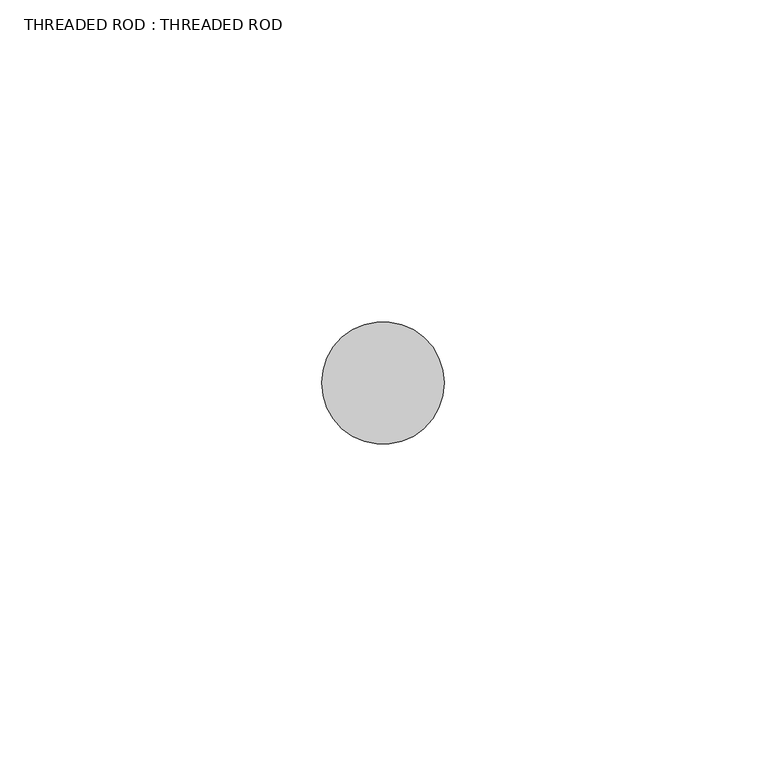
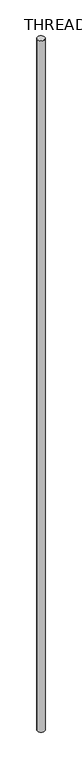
"""IFC4 building model written with IfcOpenShell, lengths in millimetres: proxy geometry, THREADED ROD : THREADED ROD."""

from ifc_helpers import new_model, si_unit, point, origin, origin_with_axes, origin_2d, place, context, project, spatial, circle_curve, trimmed, segment, composite_curve, outline, extrude, source, transform, mapped, element, save


def threaded_rod_threaded_rod_2e177004(model_context):
    return source(origin(), model_context, "Body", "SweptSolid", [
        extrude(outline(composite_curve([segment(trimmed(circle_curve(origin_2d(), 9.525), [point((-9.525, 0.0))], [point((9.525, 0.0))], False, "CARTESIAN"), True, "CONTINUOUS"), segment(trimmed(circle_curve(origin_2d(), 9.525), [point((9.525, 0.0))], [point((-9.525, 0.0))], False, "CARTESIAN"), True, "CONTINUOUS")], self_intersect=False)), origin_with_axes(), (0.0, 0.0, 1.0), 1828.8),
    ])


if __name__ == "__main__":
    model = new_model("IFC4")
    model_context = context("Model", 3, world=origin())
    ifc_project = project(units=[si_unit("LENGTHUNIT", "METRE", prefix="MILLI")], contexts=[model_context])
    site = spatial("IfcSite", under=ifc_project)
    building = spatial("IfcBuilding", under=site)
    placement = place(None, origin())
    threaded_rod_threaded_rod_shape = threaded_rod_threaded_rod_2e177004(model_context)
    element("IfcBuildingElementProxy", 1, Name="THREADED ROD : THREADED ROD", ObjectType="THREADED ROD : THREADED ROD", at=placement, inside=building, context=model_context, shape_type="MappedRepresentation", body=[
        mapped(threaded_rod_threaded_rod_shape, transform((0.0, 0.0, 0.0), x_axis=(1.0, 0.0, 0.0), y_axis=(0.0, 1.0, 0.0), z_axis=(0.0, 0.0, 1.0))),
    ])
    save(model, "model.ifc")
